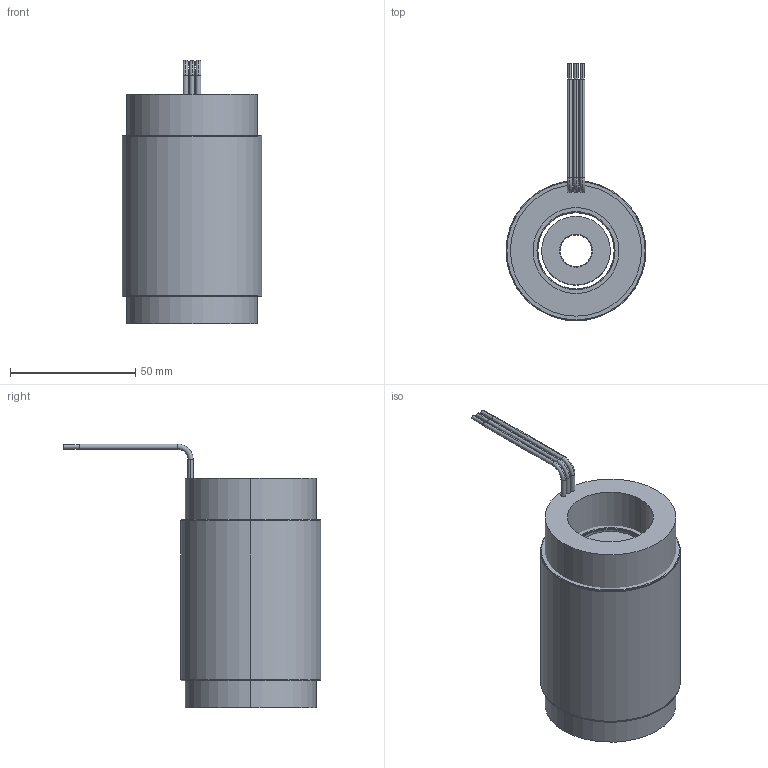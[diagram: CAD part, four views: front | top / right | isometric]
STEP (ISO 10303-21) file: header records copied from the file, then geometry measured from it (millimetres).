
FILE_DESCRIPTION (( 'STEP AP214' ), '1' );
FILE_NAME ('6100252-06.STEP', '2019-11-11T16:58:15', ( '' ), ( '' ), 'SwSTEP 2.0', 'SolidWorks 2016', '' );
FILE_SCHEMA (( 'AUTOMOTIVE_DESIGN' ));
Length unit declared in the file: millimetre
Products named in the file (9): 4500513-XX_4500513-06; 6100252-06; 4150141-XX_4150141-03; COMP4500513-XX(COIL)_COMP4500513-06(COIL); 4450150-XX_4450150-03; 4250337-XX_4250337-03; 4600087-00; 4400027-01
Assembly tree (10 placements, depth 4):
  6100252-06
    4500513-XX_4500513-06
      4450150-XX_4450150-03
        4450150-XX_4450150-03
        4400027-01  x2
        4600087-00  x2
      COMP4500513-XX(COIL)_COMP4500513-06(COIL)
    4250337-XX_4250337-03
      4150141-XX_4150141-03
Bounding box: 55.85 x 102.72 x 105.28 mm (x, y, z)
Volume: 253357.6 mm3; surface area: 71964.9 mm2
Topology: 7 solids, 7 shells, 84 faces, 174 edges, 110 vertices
Faces by surface type: cylinder 46, plane 20, torus 14, cone 4
Entity records: 2210 total; most frequent: DIRECTION 410, CARTESIAN_POINT 316, ORIENTED_EDGE 284, AXIS2_PLACEMENT_3D 184, EDGE_CURVE 142, CIRCLE 100, VERTEX_POINT 90, EDGE_LOOP 84
